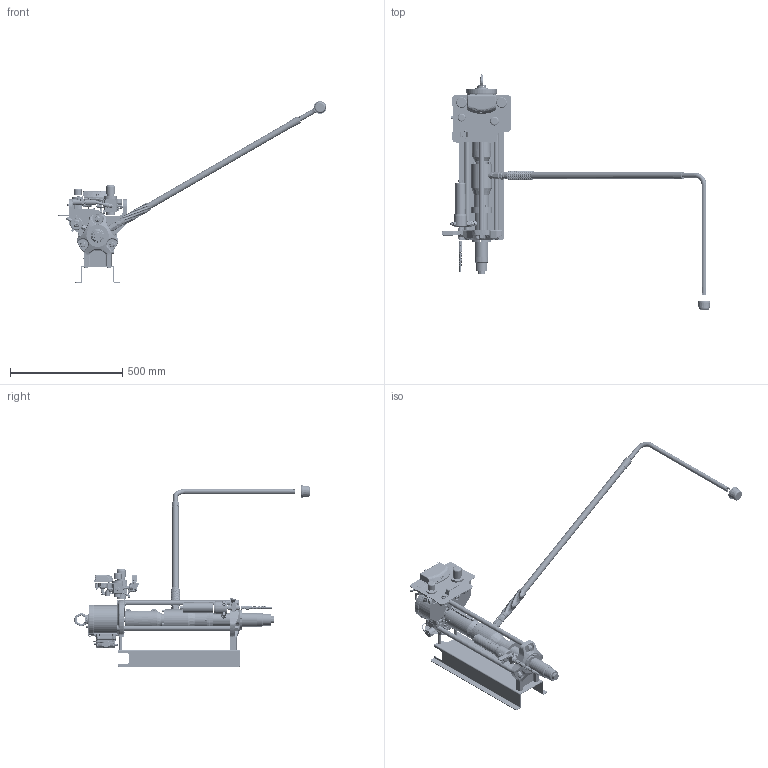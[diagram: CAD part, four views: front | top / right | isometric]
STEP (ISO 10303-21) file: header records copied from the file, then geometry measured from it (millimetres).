
FILE_DESCRIPTION((''),'2;1');
FILE_NAME('G15B01-EN-K_PRT','2020-03-05T07:51:45',('qusrh3'),(''),'CREO PARAMETRIC BY PTC INC, 2019030','CREO PARAMETRIC BY PTC INC, 2019030','');
FILE_SCHEMA(('CONFIG_CONTROL_DESIGN'));
Products named in the file (1): G15B01-EN-K_PRT
Bounding box: 1194.53 x 1046.34 x 808.56 mm (x, y, z)
Surface area: 1688418.9 mm2 (no closed solid volume)
Topology: 0 solids, 402 shells, 4317 faces, 14112 edges, 9819 vertices
Faces by surface type: plane 1489, cylinder 1009, cone 720, bspline 665, torus 349, sphere 64, extrusion 21
Entity records: 211322 total; most frequent: CARTESIAN_POINT 99510, ORIENTED_EDGE 21898, DIRECTION 21513, EDGE_CURVE 14073, VERTEX_POINT 9819, AXIS2_PLACEMENT_3D 7973, VECTOR 5567, LINE 5546
